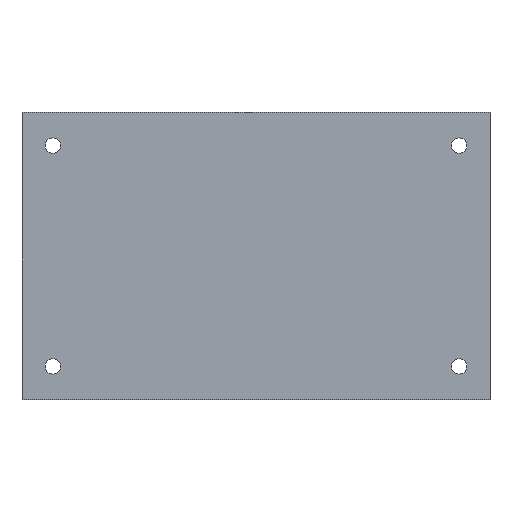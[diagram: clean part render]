
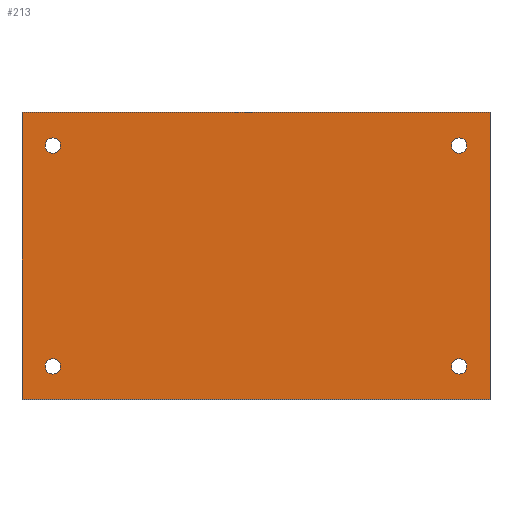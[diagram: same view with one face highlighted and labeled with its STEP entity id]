
A CAD part, top view. The second image highlights one B-rep face of the part: STEP entity #213.
In plain terms, the highlighted planar face has unit normal (0, 0, 1).
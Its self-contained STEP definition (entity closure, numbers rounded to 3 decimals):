
#24 = VERTEX_POINT('',#25);
#25 = CARTESIAN_POINT('',(0.,0.,3.));
#32 = PLANE('',#33);
#33 = AXIS2_PLACEMENT_3D('',#34,#35,#36);
#34 = CARTESIAN_POINT('',(0.,0.,0.));
#35 = DIRECTION('',(1.,0.,0.));
#36 = DIRECTION('',(0.,0.,1.));
#44 = PLANE('',#45);
#45 = AXIS2_PLACEMENT_3D('',#46,#47,#48);
#46 = CARTESIAN_POINT('',(0.,0.,0.));
#47 = DIRECTION('',(0.,1.,0.));
#48 = DIRECTION('',(0.,0.,1.));
#85 = VERTEX_POINT('',#86);
#86 = CARTESIAN_POINT('',(0.,65.,3.));
#100 = PLANE('',#101);
#101 = AXIS2_PLACEMENT_3D('',#102,#103,#104);
#102 = CARTESIAN_POINT('',(0.,65.,0.));
#103 = DIRECTION('',(0.,1.,0.));
#104 = DIRECTION('',(0.,0.,1.));
#112 = EDGE_CURVE('',#24,#85,#113,.T.);
#113 = SURFACE_CURVE('',#114,(#118,#125),.PCURVE_S1.);
#114 = LINE('',#115,#116);
#115 = CARTESIAN_POINT('',(0.,0.,3.));
#116 = VECTOR('',#117,1.);
#117 = DIRECTION('',(0.,1.,0.));
#118 = PCURVE('',#32,#119);
#119 = DEFINITIONAL_REPRESENTATION('',(#120),#124);
#120 = LINE('',#121,#122);
#121 = CARTESIAN_POINT('',(3.,0.));
#122 = VECTOR('',#123,1.);
#123 = DIRECTION('',(0.,-1.));
#124 = ( GEOMETRIC_REPRESENTATION_CONTEXT(2) 
PARAMETRIC_REPRESENTATION_CONTEXT() REPRESENTATION_CONTEXT('2D SPACE',''
  ) );
#125 = PCURVE('',#126,#131);
#126 = PLANE('',#127);
#127 = AXIS2_PLACEMENT_3D('',#128,#129,#130);
#128 = CARTESIAN_POINT('',(0.,0.,3.));
#129 = DIRECTION('',(0.,0.,1.));
#130 = DIRECTION('',(1.,0.,0.));
#131 = DEFINITIONAL_REPRESENTATION('',(#132),#136);
#132 = LINE('',#133,#134);
#133 = CARTESIAN_POINT('',(0.,0.));
#134 = VECTOR('',#135,1.);
#135 = DIRECTION('',(0.,1.));
#136 = ( GEOMETRIC_REPRESENTATION_CONTEXT(2) 
PARAMETRIC_REPRESENTATION_CONTEXT() REPRESENTATION_CONTEXT('2D SPACE',''
  ) );
#165 = EDGE_CURVE('',#24,#166,#168,.T.);
#166 = VERTEX_POINT('',#167);
#167 = CARTESIAN_POINT('',(106.,0.,3.));
#168 = SURFACE_CURVE('',#169,(#173,#180),.PCURVE_S1.);
#169 = LINE('',#170,#171);
#170 = CARTESIAN_POINT('',(0.,0.,3.));
#171 = VECTOR('',#172,1.);
#172 = DIRECTION('',(1.,0.,0.));
#173 = PCURVE('',#44,#174);
#174 = DEFINITIONAL_REPRESENTATION('',(#175),#179);
#175 = LINE('',#176,#177);
#176 = CARTESIAN_POINT('',(3.,0.));
#177 = VECTOR('',#178,1.);
#178 = DIRECTION('',(0.,1.));
#179 = ( GEOMETRIC_REPRESENTATION_CONTEXT(2) 
PARAMETRIC_REPRESENTATION_CONTEXT() REPRESENTATION_CONTEXT('2D SPACE',''
  ) );
#180 = PCURVE('',#126,#181);
#181 = DEFINITIONAL_REPRESENTATION('',(#182),#186);
#182 = LINE('',#183,#184);
#183 = CARTESIAN_POINT('',(0.,0.));
#184 = VECTOR('',#185,1.);
#185 = DIRECTION('',(1.,0.));
#186 = ( GEOMETRIC_REPRESENTATION_CONTEXT(2) 
PARAMETRIC_REPRESENTATION_CONTEXT() REPRESENTATION_CONTEXT('2D SPACE',''
  ) );
#202 = PLANE('',#203);
#203 = AXIS2_PLACEMENT_3D('',#204,#205,#206);
#204 = CARTESIAN_POINT('',(106.,0.,0.));
#205 = DIRECTION('',(1.,0.,0.));
#206 = DIRECTION('',(0.,0.,1.));
#213 = ADVANCED_FACE('',(#214,#262,#293,#324,#355),#126,.T.);
#214 = FACE_BOUND('',#215,.T.);
#215 = EDGE_LOOP('',(#216,#217,#218,#241));
#216 = ORIENTED_EDGE('',*,*,#112,.F.);
#217 = ORIENTED_EDGE('',*,*,#165,.T.);
#218 = ORIENTED_EDGE('',*,*,#219,.T.);
#219 = EDGE_CURVE('',#166,#220,#222,.T.);
#220 = VERTEX_POINT('',#221);
#221 = CARTESIAN_POINT('',(106.,65.,3.));
#222 = SURFACE_CURVE('',#223,(#227,#234),.PCURVE_S1.);
#223 = LINE('',#224,#225);
#224 = CARTESIAN_POINT('',(106.,0.,3.));
#225 = VECTOR('',#226,1.);
#226 = DIRECTION('',(0.,1.,0.));
#227 = PCURVE('',#126,#228);
#228 = DEFINITIONAL_REPRESENTATION('',(#229),#233);
#229 = LINE('',#230,#231);
#230 = CARTESIAN_POINT('',(106.,0.));
#231 = VECTOR('',#232,1.);
#232 = DIRECTION('',(0.,1.));
#233 = ( GEOMETRIC_REPRESENTATION_CONTEXT(2) 
PARAMETRIC_REPRESENTATION_CONTEXT() REPRESENTATION_CONTEXT('2D SPACE',''
  ) );
#234 = PCURVE('',#202,#235);
#235 = DEFINITIONAL_REPRESENTATION('',(#236),#240);
#236 = LINE('',#237,#238);
#237 = CARTESIAN_POINT('',(3.,0.));
#238 = VECTOR('',#239,1.);
#239 = DIRECTION('',(0.,-1.));
#240 = ( GEOMETRIC_REPRESENTATION_CONTEXT(2) 
PARAMETRIC_REPRESENTATION_CONTEXT() REPRESENTATION_CONTEXT('2D SPACE',''
  ) );
#241 = ORIENTED_EDGE('',*,*,#242,.F.);
#242 = EDGE_CURVE('',#85,#220,#243,.T.);
#243 = SURFACE_CURVE('',#244,(#248,#255),.PCURVE_S1.);
#244 = LINE('',#245,#246);
#245 = CARTESIAN_POINT('',(0.,65.,3.));
#246 = VECTOR('',#247,1.);
#247 = DIRECTION('',(1.,0.,0.));
#248 = PCURVE('',#126,#249);
#249 = DEFINITIONAL_REPRESENTATION('',(#250),#254);
#250 = LINE('',#251,#252);
#251 = CARTESIAN_POINT('',(0.,65.));
#252 = VECTOR('',#253,1.);
#253 = DIRECTION('',(1.,0.));
#254 = ( GEOMETRIC_REPRESENTATION_CONTEXT(2) 
PARAMETRIC_REPRESENTATION_CONTEXT() REPRESENTATION_CONTEXT('2D SPACE',''
  ) );
#255 = PCURVE('',#100,#256);
#256 = DEFINITIONAL_REPRESENTATION('',(#257),#261);
#257 = LINE('',#258,#259);
#258 = CARTESIAN_POINT('',(3.,0.));
#259 = VECTOR('',#260,1.);
#260 = DIRECTION('',(0.,1.));
#261 = ( GEOMETRIC_REPRESENTATION_CONTEXT(2) 
PARAMETRIC_REPRESENTATION_CONTEXT() REPRESENTATION_CONTEXT('2D SPACE',''
  ) );
#262 = FACE_BOUND('',#263,.T.);
#263 = EDGE_LOOP('',(#264));
#264 = ORIENTED_EDGE('',*,*,#265,.F.);
#265 = EDGE_CURVE('',#266,#266,#268,.T.);
#266 = VERTEX_POINT('',#267);
#267 = CARTESIAN_POINT('',(8.75,7.5,3.));
#268 = SURFACE_CURVE('',#269,(#274,#281),.PCURVE_S1.);
#269 = CIRCLE('',#270,1.75);
#270 = AXIS2_PLACEMENT_3D('',#271,#272,#273);
#271 = CARTESIAN_POINT('',(7.,7.5,3.));
#272 = DIRECTION('',(0.,0.,1.));
#273 = DIRECTION('',(1.,0.,-0.));
#274 = PCURVE('',#126,#275);
#275 = DEFINITIONAL_REPRESENTATION('',(#276),#280);
#276 = CIRCLE('',#277,1.75);
#277 = AXIS2_PLACEMENT_2D('',#278,#279);
#278 = CARTESIAN_POINT('',(7.,7.5));
#279 = DIRECTION('',(1.,0.));
#280 = ( GEOMETRIC_REPRESENTATION_CONTEXT(2) 
PARAMETRIC_REPRESENTATION_CONTEXT() REPRESENTATION_CONTEXT('2D SPACE',''
  ) );
#281 = PCURVE('',#282,#287);
#282 = CYLINDRICAL_SURFACE('',#283,1.75);
#283 = AXIS2_PLACEMENT_3D('',#284,#285,#286);
#284 = CARTESIAN_POINT('',(7.,7.5,-1.));
#285 = DIRECTION('',(0.,0.,1.));
#286 = DIRECTION('',(1.,0.,-0.));
#287 = DEFINITIONAL_REPRESENTATION('',(#288),#292);
#288 = LINE('',#289,#290);
#289 = CARTESIAN_POINT('',(0.,4.));
#290 = VECTOR('',#291,1.);
#291 = DIRECTION('',(1.,0.));
#292 = ( GEOMETRIC_REPRESENTATION_CONTEXT(2) 
PARAMETRIC_REPRESENTATION_CONTEXT() REPRESENTATION_CONTEXT('2D SPACE',''
  ) );
#293 = FACE_BOUND('',#294,.T.);
#294 = EDGE_LOOP('',(#295));
#295 = ORIENTED_EDGE('',*,*,#296,.F.);
#296 = EDGE_CURVE('',#297,#297,#299,.T.);
#297 = VERTEX_POINT('',#298);
#298 = CARTESIAN_POINT('',(100.75,7.5,3.));
#299 = SURFACE_CURVE('',#300,(#305,#312),.PCURVE_S1.);
#300 = CIRCLE('',#301,1.75);
#301 = AXIS2_PLACEMENT_3D('',#302,#303,#304);
#302 = CARTESIAN_POINT('',(99.,7.5,3.));
#303 = DIRECTION('',(0.,0.,1.));
#304 = DIRECTION('',(1.,0.,-0.));
#305 = PCURVE('',#126,#306);
#306 = DEFINITIONAL_REPRESENTATION('',(#307),#311);
#307 = CIRCLE('',#308,1.75);
#308 = AXIS2_PLACEMENT_2D('',#309,#310);
#309 = CARTESIAN_POINT('',(99.,7.5));
#310 = DIRECTION('',(1.,0.));
#311 = ( GEOMETRIC_REPRESENTATION_CONTEXT(2) 
PARAMETRIC_REPRESENTATION_CONTEXT() REPRESENTATION_CONTEXT('2D SPACE',''
  ) );
#312 = PCURVE('',#313,#318);
#313 = CYLINDRICAL_SURFACE('',#314,1.75);
#314 = AXIS2_PLACEMENT_3D('',#315,#316,#317);
#315 = CARTESIAN_POINT('',(99.,7.5,-1.));
#316 = DIRECTION('',(0.,0.,1.));
#317 = DIRECTION('',(1.,0.,-0.));
#318 = DEFINITIONAL_REPRESENTATION('',(#319),#323);
#319 = LINE('',#320,#321);
#320 = CARTESIAN_POINT('',(0.,4.));
#321 = VECTOR('',#322,1.);
#322 = DIRECTION('',(1.,0.));
#323 = ( GEOMETRIC_REPRESENTATION_CONTEXT(2) 
PARAMETRIC_REPRESENTATION_CONTEXT() REPRESENTATION_CONTEXT('2D SPACE',''
  ) );
#324 = FACE_BOUND('',#325,.T.);
#325 = EDGE_LOOP('',(#326));
#326 = ORIENTED_EDGE('',*,*,#327,.F.);
#327 = EDGE_CURVE('',#328,#328,#330,.T.);
#328 = VERTEX_POINT('',#329);
#329 = CARTESIAN_POINT('',(8.75,57.5,3.));
#330 = SURFACE_CURVE('',#331,(#336,#343),.PCURVE_S1.);
#331 = CIRCLE('',#332,1.75);
#332 = AXIS2_PLACEMENT_3D('',#333,#334,#335);
#333 = CARTESIAN_POINT('',(7.,57.5,3.));
#334 = DIRECTION('',(0.,0.,1.));
#335 = DIRECTION('',(1.,0.,-0.));
#336 = PCURVE('',#126,#337);
#337 = DEFINITIONAL_REPRESENTATION('',(#338),#342);
#338 = CIRCLE('',#339,1.75);
#339 = AXIS2_PLACEMENT_2D('',#340,#341);
#340 = CARTESIAN_POINT('',(7.,57.5));
#341 = DIRECTION('',(1.,0.));
#342 = ( GEOMETRIC_REPRESENTATION_CONTEXT(2) 
PARAMETRIC_REPRESENTATION_CONTEXT() REPRESENTATION_CONTEXT('2D SPACE',''
  ) );
#343 = PCURVE('',#344,#349);
#344 = CYLINDRICAL_SURFACE('',#345,1.75);
#345 = AXIS2_PLACEMENT_3D('',#346,#347,#348);
#346 = CARTESIAN_POINT('',(7.,57.5,-1.));
#347 = DIRECTION('',(0.,0.,1.));
#348 = DIRECTION('',(1.,0.,-0.));
#349 = DEFINITIONAL_REPRESENTATION('',(#350),#354);
#350 = LINE('',#351,#352);
#351 = CARTESIAN_POINT('',(0.,4.));
#352 = VECTOR('',#353,1.);
#353 = DIRECTION('',(1.,0.));
#354 = ( GEOMETRIC_REPRESENTATION_CONTEXT(2) 
PARAMETRIC_REPRESENTATION_CONTEXT() REPRESENTATION_CONTEXT('2D SPACE',''
  ) );
#355 = FACE_BOUND('',#356,.T.);
#356 = EDGE_LOOP('',(#357));
#357 = ORIENTED_EDGE('',*,*,#358,.F.);
#358 = EDGE_CURVE('',#359,#359,#361,.T.);
#359 = VERTEX_POINT('',#360);
#360 = CARTESIAN_POINT('',(100.75,57.5,3.));
#361 = SURFACE_CURVE('',#362,(#367,#374),.PCURVE_S1.);
#362 = CIRCLE('',#363,1.75);
#363 = AXIS2_PLACEMENT_3D('',#364,#365,#366);
#364 = CARTESIAN_POINT('',(99.,57.5,3.));
#365 = DIRECTION('',(0.,0.,1.));
#366 = DIRECTION('',(1.,0.,-0.));
#367 = PCURVE('',#126,#368);
#368 = DEFINITIONAL_REPRESENTATION('',(#369),#373);
#369 = CIRCLE('',#370,1.75);
#370 = AXIS2_PLACEMENT_2D('',#371,#372);
#371 = CARTESIAN_POINT('',(99.,57.5));
#372 = DIRECTION('',(1.,0.));
#373 = ( GEOMETRIC_REPRESENTATION_CONTEXT(2) 
PARAMETRIC_REPRESENTATION_CONTEXT() REPRESENTATION_CONTEXT('2D SPACE',''
  ) );
#374 = PCURVE('',#375,#380);
#375 = CYLINDRICAL_SURFACE('',#376,1.75);
#376 = AXIS2_PLACEMENT_3D('',#377,#378,#379);
#377 = CARTESIAN_POINT('',(99.,57.5,-1.));
#378 = DIRECTION('',(0.,0.,1.));
#379 = DIRECTION('',(1.,0.,-0.));
#380 = DEFINITIONAL_REPRESENTATION('',(#381),#385);
#381 = LINE('',#382,#383);
#382 = CARTESIAN_POINT('',(0.,4.));
#383 = VECTOR('',#384,1.);
#384 = DIRECTION('',(1.,0.));
#385 = ( GEOMETRIC_REPRESENTATION_CONTEXT(2) 
PARAMETRIC_REPRESENTATION_CONTEXT() REPRESENTATION_CONTEXT('2D SPACE',''
  ) );
